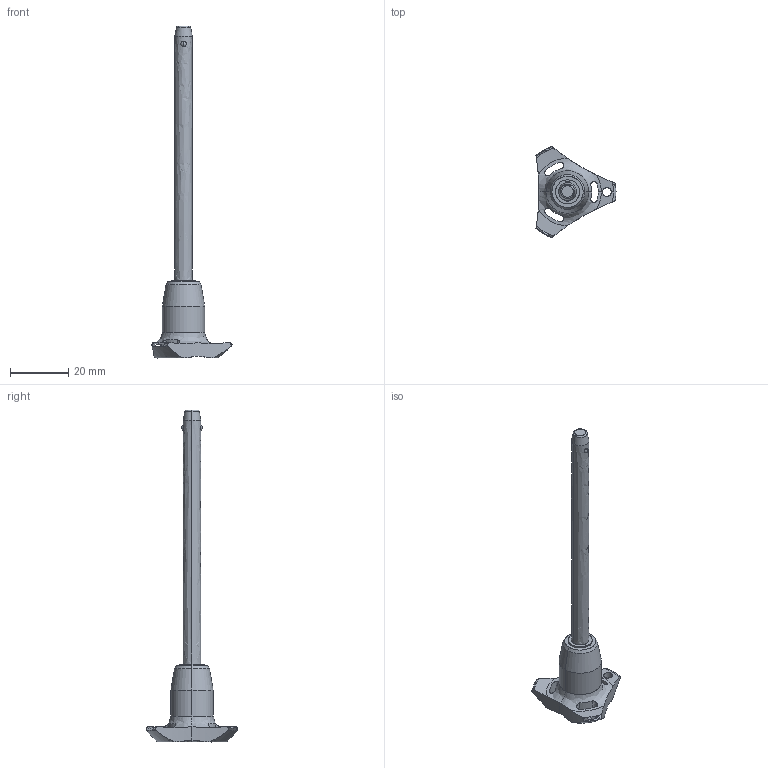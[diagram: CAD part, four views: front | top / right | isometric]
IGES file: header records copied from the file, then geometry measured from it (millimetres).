
Start section: SolidWorks IGES file using analytic representation for surfaces
Global section: file name: C:\Users\ianosborn\Desktop\QR1734_v2\QR1734_v2_20251113_IGES\QR1734.M06-080-S.igs; native system: SolidWorks 2019; preprocessor: SolidWorks 2019; author: IanOsborn; date: 251112.141232; units: millimetre
Bounding box: 27.4 x 31.31 x 113.7 mm (x, y, z)
Surface area: 4060.8 mm2 (no closed solid volume)
Topology: 0 solids, 0 shells, 66 faces, 1251 edges, 1232 vertices
Faces by surface type: revolution 50, bspline 16
